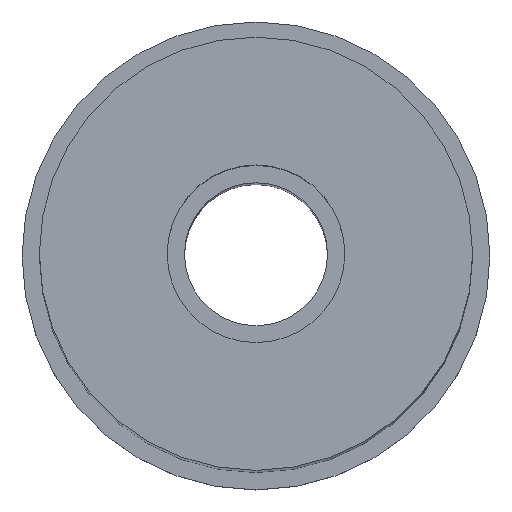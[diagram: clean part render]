
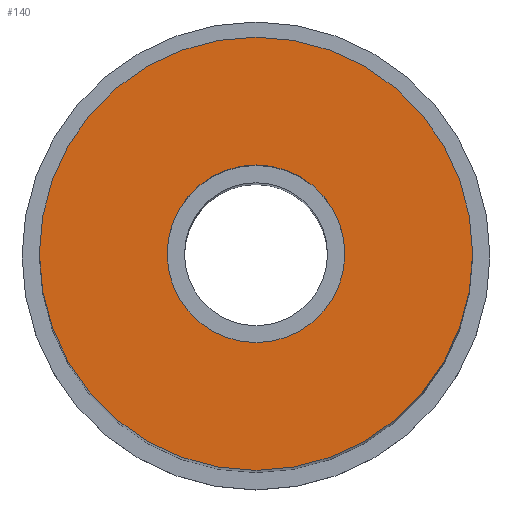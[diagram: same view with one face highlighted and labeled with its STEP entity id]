
A CAD part, top view. The second image highlights one B-rep face of the part: STEP entity #140.
In plain terms, the highlighted planar face has unit normal (0, 0, 1).
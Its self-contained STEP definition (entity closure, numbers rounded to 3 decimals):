
#24 = VERTEX_POINT('',#25);
#25 = CARTESIAN_POINT('',(5.,0.,30.));
#32 = CYLINDRICAL_SURFACE('',#33,5.);
#33 = AXIS2_PLACEMENT_3D('',#34,#35,#36);
#34 = CARTESIAN_POINT('',(0.,0.,0.));
#35 = DIRECTION('',(0.,0.,1.));
#36 = DIRECTION('',(1.,0.,-0.));
#51 = EDGE_CURVE('',#24,#24,#52,.T.);
#52 = SURFACE_CURVE('',#53,(#58,#65),.PCURVE_S1.);
#53 = CIRCLE('',#54,5.);
#54 = AXIS2_PLACEMENT_3D('',#55,#56,#57);
#55 = CARTESIAN_POINT('',(0.,0.,30.));
#56 = DIRECTION('',(0.,0.,1.));
#57 = DIRECTION('',(1.,0.,-0.));
#58 = PCURVE('',#32,#59);
#59 = DEFINITIONAL_REPRESENTATION('',(#60),#64);
#60 = LINE('',#61,#62);
#61 = CARTESIAN_POINT('',(0.,30.));
#62 = VECTOR('',#63,1.);
#63 = DIRECTION('',(1.,0.));
#64 = ( GEOMETRIC_REPRESENTATION_CONTEXT(2) 
PARAMETRIC_REPRESENTATION_CONTEXT() REPRESENTATION_CONTEXT('2D SPACE',''
  ) );
#65 = PCURVE('',#66,#71);
#66 = PLANE('',#67);
#67 = AXIS2_PLACEMENT_3D('',#68,#69,#70);
#68 = CARTESIAN_POINT('',(0.,0.,30.));
#69 = DIRECTION('',(0.,0.,1.));
#70 = DIRECTION('',(1.,0.,-0.));
#71 = DEFINITIONAL_REPRESENTATION('',(#72),#76);
#72 = CIRCLE('',#73,5.);
#73 = AXIS2_PLACEMENT_2D('',#74,#75);
#74 = CARTESIAN_POINT('',(0.,0.));
#75 = DIRECTION('',(1.,0.));
#76 = ( GEOMETRIC_REPRESENTATION_CONTEXT(2) 
PARAMETRIC_REPRESENTATION_CONTEXT() REPRESENTATION_CONTEXT('2D SPACE',''
  ) );
#140 = ADVANCED_FACE('',(#141,#144),#66,.T.);
#141 = FACE_BOUND('',#142,.T.);
#142 = EDGE_LOOP('',(#143));
#143 = ORIENTED_EDGE('',*,*,#51,.T.);
#144 = FACE_BOUND('',#145,.T.);
#145 = EDGE_LOOP('',(#146));
#146 = ORIENTED_EDGE('',*,*,#147,.F.);
#147 = EDGE_CURVE('',#148,#148,#150,.T.);
#148 = VERTEX_POINT('',#149);
#149 = CARTESIAN_POINT('',(2.05,0.,30.));
#150 = SURFACE_CURVE('',#151,(#156,#163),.PCURVE_S1.);
#151 = CIRCLE('',#152,2.05);
#152 = AXIS2_PLACEMENT_3D('',#153,#154,#155);
#153 = CARTESIAN_POINT('',(0.,0.,30.));
#154 = DIRECTION('',(0.,0.,1.));
#155 = DIRECTION('',(1.,0.,-0.));
#156 = PCURVE('',#66,#157);
#157 = DEFINITIONAL_REPRESENTATION('',(#158),#162);
#158 = CIRCLE('',#159,2.05);
#159 = AXIS2_PLACEMENT_2D('',#160,#161);
#160 = CARTESIAN_POINT('',(0.,0.));
#161 = DIRECTION('',(1.,0.));
#162 = ( GEOMETRIC_REPRESENTATION_CONTEXT(2) 
PARAMETRIC_REPRESENTATION_CONTEXT() REPRESENTATION_CONTEXT('2D SPACE',''
  ) );
#163 = PCURVE('',#164,#169);
#164 = CYLINDRICAL_SURFACE('',#165,2.05);
#165 = AXIS2_PLACEMENT_3D('',#166,#167,#168);
#166 = CARTESIAN_POINT('',(0.,0.,24.));
#167 = DIRECTION('',(0.,0.,1.));
#168 = DIRECTION('',(1.,0.,-0.));
#169 = DEFINITIONAL_REPRESENTATION('',(#170),#174);
#170 = LINE('',#171,#172);
#171 = CARTESIAN_POINT('',(0.,6.));
#172 = VECTOR('',#173,1.);
#173 = DIRECTION('',(1.,0.));
#174 = ( GEOMETRIC_REPRESENTATION_CONTEXT(2) 
PARAMETRIC_REPRESENTATION_CONTEXT() REPRESENTATION_CONTEXT('2D SPACE',''
  ) );
